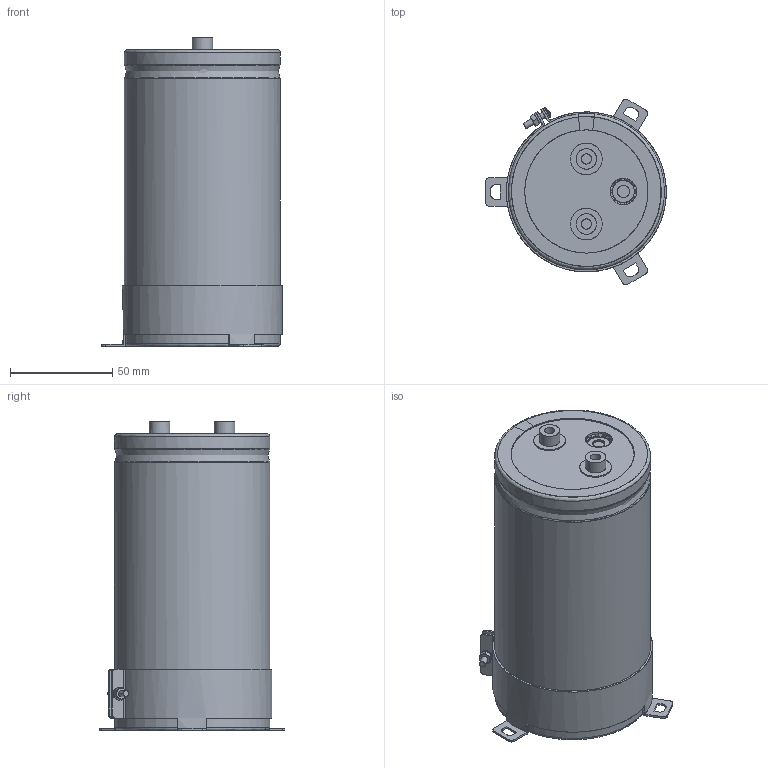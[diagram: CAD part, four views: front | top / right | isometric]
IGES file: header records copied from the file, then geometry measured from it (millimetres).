
Start section: JAMA-IS VERSION  1.0
Bounding box: 88.3 x 90.75 x 151 mm (x, y, z)
Surface area: 134297.2 mm2 (no closed solid volume)
Topology: 0 solids, 0 shells, 259 faces, 4448 edges, 4417 vertices
Faces by surface type: bspline 259
